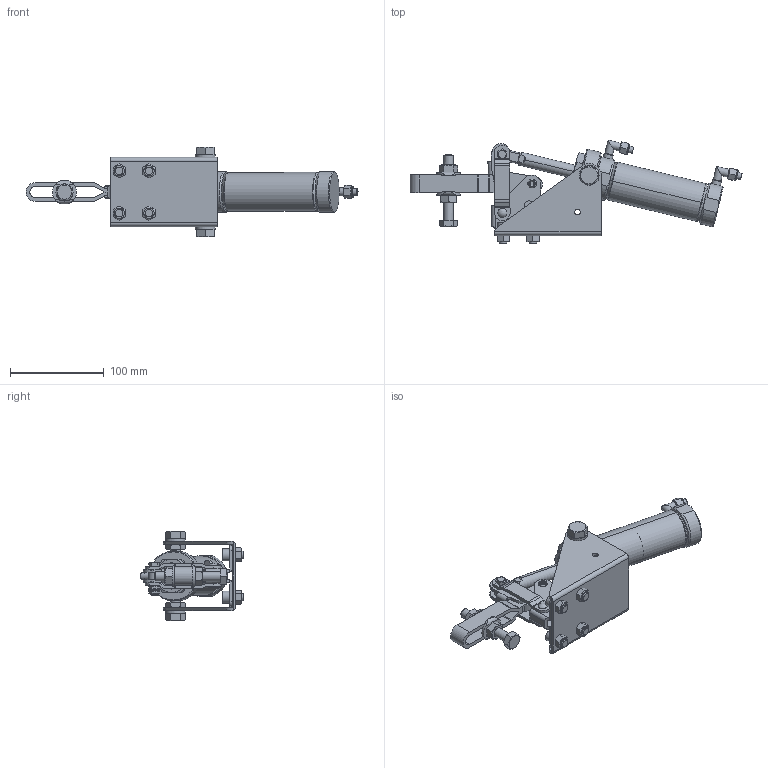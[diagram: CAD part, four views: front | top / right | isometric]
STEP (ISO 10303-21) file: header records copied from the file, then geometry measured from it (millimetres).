
FILE_DESCRIPTION(/* description */ (''),/* implementation_level */ '2;1');
FILE_NAME(/* name */ 'E:\3D作業領域\エアークランプ（スタンダード置替）\AC650V\No.AC650V.stp',/* time_stamp */ '2024-04-16T09:17:59+09:00',/* author */ ('takahashi'),/* organization */ (''),/* preprocessor_version */ 'ST-DEVELOPER v18.1',/* originating_system */ 'Autodesk Inventor 2020',/* authorisation */ '');
FILE_SCHEMA (('AUTOMOTIVE_DESIGN { 1 0 10303 214 3 1 1 }'));
Length unit declared in the file: millimetre
Products named in the file (33): No.AC650V; AC650フレーム; AC650フレーム_1; コンタルナットM12; AC650シリンダー支持ボルト; AC650SW; HV650ベース1（リベットアセンブリ済）; HV650ベース1; リベット6×15（ナベ平中空）; HV650アームa; HV650リンク1（リベットアセンブリ済）; HV650リンク1; リベット6×14.8（ナベ平中空）; AC650レバー; AC650レバー_1; リベット6×21（ナベ平中空）; AC650シリンダー連結ボルト; M6SW; コンタルナットM6; AC650Sシリンダー(CMK2-00-40-62-T0H-D
-V); CMK2-00-40-62-T0H-D-V_6; AC650S取付金具リング; 100SAC650S取付金具ヘッドボルト; CMK2-00-40-62-T0H-D-V_1; ニップルL型; ニップルL型_1; 袋ナット; スリーブb; M10×70ボルト; M10丸座金; M10ナット; キャップスクリューM8; M8ナット
Assembly tree (44 placements, depth 3):
  No.AC650V
    AC650フレーム
      AC650フレーム_1
      コンタルナットM12  x2
      AC650シリンダー支持ボルト  x2
      AC650SW  x2
    HV650ベース1（リベットアセンブリ済）
      HV650ベース1
      リベット6×15（ナベ平中空）
    HV650アームa
    HV650リンク1（リベットアセンブリ済）
      HV650リンク1
      リベット6×14.8（ナベ平中空）
    AC650レバー
      AC650レバー_1
      リベット6×21（ナベ平中空）
      AC650シリンダー連結ボルト
      M6SW
      コンタルナットM6  x2
    AC650Sシリンダー(CMK2-00-40-62-T0H-D
-V)
      CMK2-00-40-62-T0H-D-V_6
      AC650S取付金具リング
      100SAC650S取付金具ヘッドボルト
    CMK2-00-40-62-T0H-D-V_1
    ニップルL型  x2
      ニップルL型_1
      袋ナット
      スリーブb
    M10×70ボルト
    M10丸座金
    M10ナット  x2
    キャップスクリューM8  x4
    M8ナット  x4
Bounding box: 354.51 x 110.74 x 96 mm (x, y, z)
Volume: 327934.8 mm3; surface area: 174155.6 mm2
Topology: 42 solids, 42 shells, 648 faces, 1550 edges, 1030 vertices
Faces by surface type: plane 359, cylinder 207, cone 73, torus 6, sphere 3
Full cylindrical faces by diameter (mm): 3 x2, 4 x5, 4.5 x4, 5.9 x3, 5.98 x3, 6 x17, 6.1 x1, 6.5 x3, 7 x2, 7.3 x2, 8 x8, 8.2 x2, 8.3 x4, 8.4 x4, 8.5 x4, 9.2 x3, 9.5 x1, 9.7 x2, 10 x7, 10.3 x2, 10.4 x4, 11 x2, 12 x5, 12.1 x2, 12.5 x2, 13 x4, 21.2 x2, 26 x1, 30 x2, 40 x1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
Entity records: 16520 total; most frequent: CARTESIAN_POINT 3405, DIRECTION 2631, ORIENTED_EDGE 2372, EDGE_CURVE 1186, AXIS2_PLACEMENT_3D 1021, VERTEX_POINT 788, EDGE_LOOP 602, LINE 589
